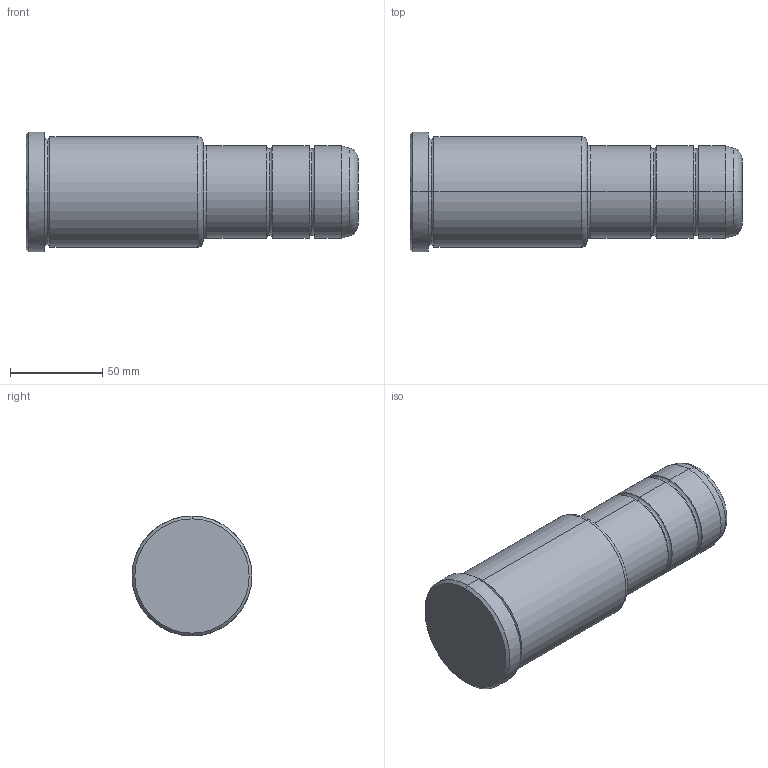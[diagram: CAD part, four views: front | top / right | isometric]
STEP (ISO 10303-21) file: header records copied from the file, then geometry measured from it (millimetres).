
FILE_DESCRIPTION(('CATIA V5 STEP Exchange'),'2;1');
FILE_NAME('C:\Users\Utente\Desktop\IO LAVORO\3D X SITO CF\X SITO\PLASTICA\351\351-50X96X180.stp','2021-11-08T18:59:57+00:00',('none'),('none'),'CATIA Version 5 Release 20 GA (IN-10)','CATIA V5 STEP AP203','none');
FILE_SCHEMA(('CONFIG_CONTROL_DESIGN'));
Length unit declared in the file: millimetre
Products named in the file (1): 351-50X96X180
Bounding box: 180 x 65 x 65 mm (x, y, z)
Volume: 436889.5 mm3; surface area: 37714.1 mm2
Topology: 1 solids, 1 shells, 35 faces, 98 edges, 66 vertices
Faces by surface type: torus 18, cylinder 10, cone 4, plane 3
Entity records: 1198 total; most frequent: CARTESIAN_POINT 256, ORIENTED_EDGE 196, DIRECTION 164, AXIS2_PLACEMENT_3D 116, EDGE_CURVE 98, CIRCLE 80, VERTEX_POINT 66, EDGE_LOOP 36
